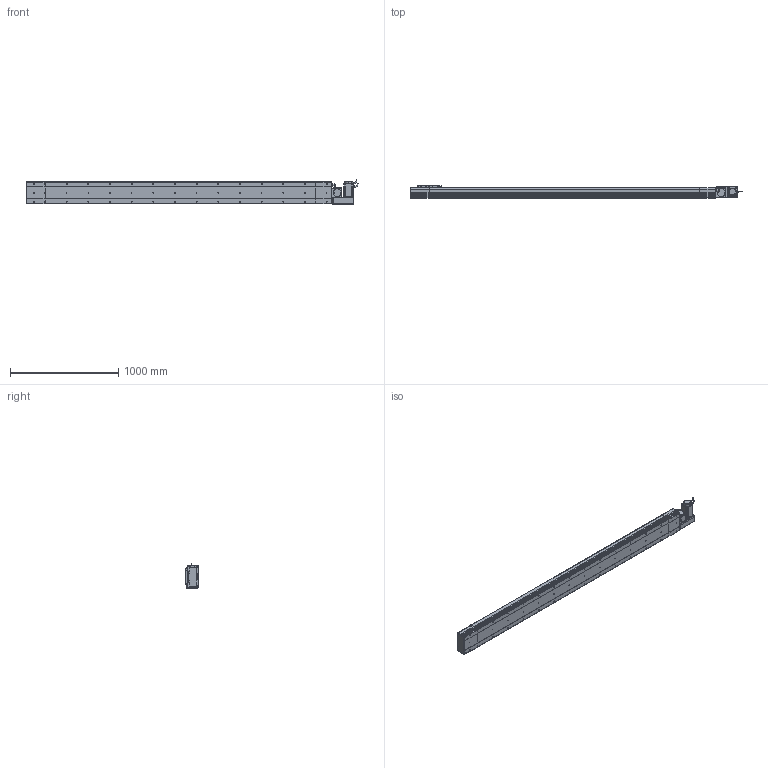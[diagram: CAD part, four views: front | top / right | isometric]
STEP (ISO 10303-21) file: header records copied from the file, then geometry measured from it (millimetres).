
FILE_DESCRIPTION (( 'STEP AP214' ), '1' );
FILE_NAME ('D20 CBH RH S2500.STEP', '2010-06-30T10:16:04', ( 'Conseil Régional Haute-Normandie' ), ( 'Conseil Régional Haute-Normandie' ), 'SwSTEP 2.0', 'SolidWorks 2010', '' );
FILE_SCHEMA (( 'AUTOMOTIVE_DESIGN' ));
Length unit declared in the file: millimetre
Products named in the file (31): vis M5 L15_Default; Plaque De Serrage D20_Default; Tail D20+100_Default; Corp D20 S2500_Default; Couvercle S2500_Default; Corp Tail D20+100_Default; Corp S2500_Default; Plaque de Bout Tail D20_Default; D20 CBH RH S2500; Couvercle RH_Default; Corp Tail D20 RH_Default; Head D20 RH_Default; Rondelle Cache D20 RH_Default; Plaque De Serrage D20 RH_Default; Plaque de Bout Head D20 RH_Default; avant 90BLDC125A-640; Moteur motionking 90BLDC125A-640; Support moteur RH_Default; Conecteur2_Default; codeur 90BLDC125-640; corps 90BLDC125A-640; vis M5 L30_Default; ecrou_Default; Conecteur_Default; Chariot D20_Default; vis M5 L47_Default; Cache Support Moteur RH_Default; Couvercle_Default; Glissiere_Default; Support Chariot D20_Default
Assembly tree (68 placements, depth 4):
  D20 CBH RH S2500
    Head D20 RH_Default
      vis M5 L15_Default  x14
      Corp Tail D20 RH_Default
      vis M5 L47_Default  x4
      Cache Support Moteur RH_Default
      ecrou_Default  x4
      Moteur motionking 90BLDC125A-640
        Conecteur_Default
        codeur 90BLDC125-640
        corps 90BLDC125A-640
        avant 90BLDC125A-640
        Conecteur2_Default
      Plaque de Bout Head D20 RH_Default
      vis M5 L30_Default  x4
      Rondelle Cache D20 RH_Default  x3
      Plaque De Serrage D20 RH_Default
      Support moteur RH_Default
      Couvercle RH_Default
    Chariot D20_Default
      Glissiere_Default
      vis M5 L15_Default  x8
      Support Chariot D20_Default
      Chariot D20_Default
    Corp D20 S2500_Default
      Corp S2500_Default
      Couvercle S2500_Default
    Tail D20+100_Default
      Plaque De Serrage D20_Default
      vis M5 L15_Default  x6
      Corp Tail D20+100_Default
      Couvercle_Default
      Plaque de Bout Tail D20_Default
Bounding box: 3065.45 x 119.5 x 229.7 mm (x, y, z)
Volume: 20082598.8 mm3; surface area: 3889124.2 mm2
Topology: 105 solids, 105 shells, 3847 faces, 9570 edges, 6214 vertices
Faces by surface type: plane 2140, bspline 806, cylinder 730, torus 95, cone 72, sphere 4
Entity records: 160310 total; most frequent: CARTESIAN_POINT 82463, ORIENTED_EDGE 15408, DIRECTION 11782, EDGE_CURVE 7704, VERTEX_POINT 5098, VECTOR 4972, LINE 4972, AXIS2_PLACEMENT_3D 3405
